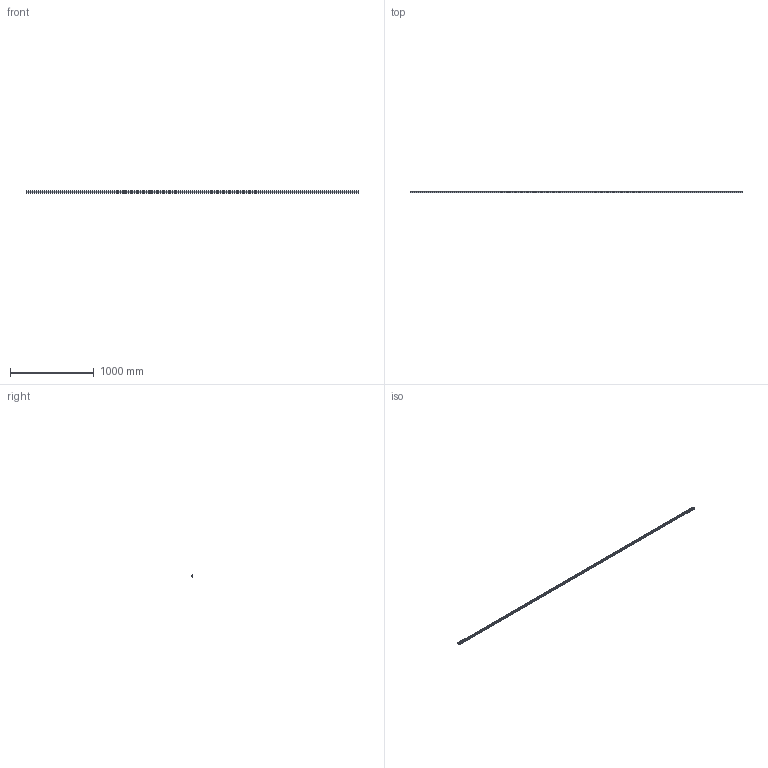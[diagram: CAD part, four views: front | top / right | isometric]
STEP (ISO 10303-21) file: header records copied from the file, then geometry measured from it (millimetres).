
FILE_DESCRIPTION (( 'STEP AP203' ), '1' );
FILE_NAME ('L1018.25R-3960.step', '2023-08-06T10:51:00', ( '' ), ( '' ), 'SwSTEP 2.0', 'SolidWorks 2019', '' );
FILE_SCHEMA (( 'CONFIG_CONTROL_DESIGN' ));
Length unit declared in the file: millimetre
Products named in the file (1): L1018.25R-3960
Bounding box: 3960 x 21.8 x 25 mm (x, y, z)
Volume: 1646916.9 mm3; surface area: 394073.2 mm2
Topology: 1 solids, 1 shells, 623 faces, 1401 edges, 780 vertices
Faces by surface type: cylinder 267, cone 264, plane 92
Entity records: 16442 total; most frequent: DIRECTION 3183, CARTESIAN_POINT 2673, ORIENTED_EDGE 2538, AXIS2_PLACEMENT_3D 1290, EDGE_CURVE 1269, VERTEX_POINT 780, EDGE_LOOP 755, CIRCLE 666
